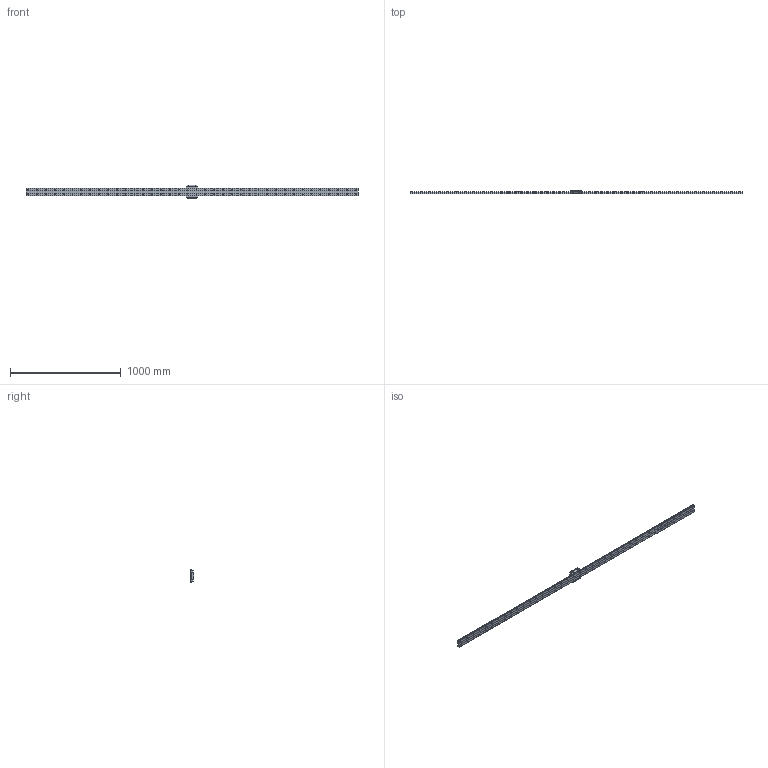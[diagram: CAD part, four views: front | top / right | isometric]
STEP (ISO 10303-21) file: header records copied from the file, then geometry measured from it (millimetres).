
FILE_DESCRIPTION(/* description */ ('STEP AP214'),/* implementation_level */ '2;1');
FILE_NAME(/* name */ 'SHW35CA1SS-3000L_G20_0_Without_grease_nipple_1446-5_0_0_01',/* time_stamp */ '2024-02-12T10:05:48+01:00',/* author */ ('License CC BY-ND 4.0'),/* organization */ ('CADENAS'),/* preprocessor_version */ 'ST-DEVELOPER v19.3',/* originating_system */ 'PARTsolutions',/* authorisation */ ' ');
FILE_SCHEMA (('AUTOMOTIVE_DESIGN {1 0 10303 214 3 1 1}'));
Length unit declared in the file: millimetre
Products named in the file (4): SHW35CA1SS-3000L_G20_0_Without_grease_nipple_1446-5_0_0_01; SHW35CA300020 Track; SHW35CASS1 Slide12-50; -SHW_grease_nipple_joint
Assembly tree (3 placements, depth 2):
  SHW35CA1SS-3000L_G20_0_Without_grease_nipple_1446-5_0_0_01
    SHW35CA300020 Track
    SHW35CASS1 Slide12-50
    -SHW_grease_nipple_joint
Bounding box: 3000 x 35 x 120 mm (x, y, z)
Volume: 3860421.3 mm3; surface area: 614210.5 mm2
Topology: 2 solids, 2 shells, 420 faces, 981 edges, 642 vertices
Faces by surface type: cylinder 202, plane 202, cone 16
Full cylindrical faces by diameter (mm): 4.917 x2, 6.8 x6, 7 x76, 11 x76
Entity records: 11586 total; most frequent: DIRECTION 2080, CARTESIAN_POINT 1875, ORIENTED_EDGE 1588, AXIS2_PLACEMENT_3D 866, FACE_BOUND 838, EDGE_LOOP 836, EDGE_CURVE 794, VERTEX_POINT 632
